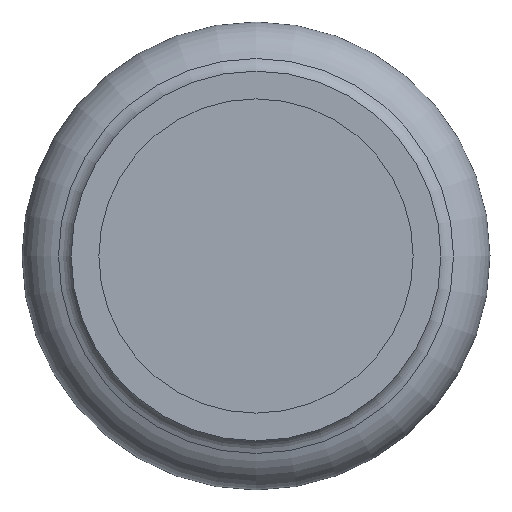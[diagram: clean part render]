
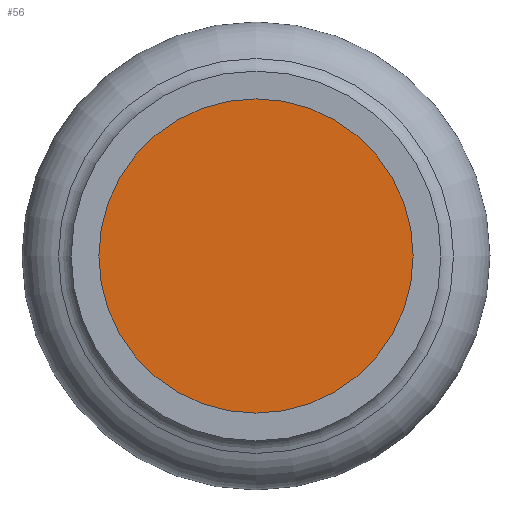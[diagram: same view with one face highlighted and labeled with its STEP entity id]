
A CAD part, front view. The second image highlights one B-rep face of the part: STEP entity #56.
In plain terms, the highlighted planar face has unit normal (0, -1, 0).
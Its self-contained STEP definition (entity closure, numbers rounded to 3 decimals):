
#56=ADVANCED_FACE('',(#93),#95,.T.);
#93=FACE_BOUND('',#94,.T.);
#94=EDGE_LOOP('',(#204));
#95=PLANE('',#96);
#96=AXIS2_PLACEMENT_3D('',#97,#98,#99);
#97=CARTESIAN_POINT('',(0.,-57.,0.));
#98=DIRECTION('',(0.,-1.,0.));
#99=DIRECTION('',(0.,0.,-1.));
#204=ORIENTED_EDGE('',*,*,#229,.T.);
#229=EDGE_CURVE('',#244,#244,#245,.T.);
#244=VERTEX_POINT('',#274);
#245=CIRCLE('',#275,7.65);
#274=CARTESIAN_POINT('',(0.,-57.,7.65));
#275=AXIS2_PLACEMENT_3D('',#276,#277,#278);
#276=CARTESIAN_POINT('',(0.,-57.,0.));
#277=DIRECTION('',(0.,-1.,0.));
#278=DIRECTION('',(0.,0.,1.));
